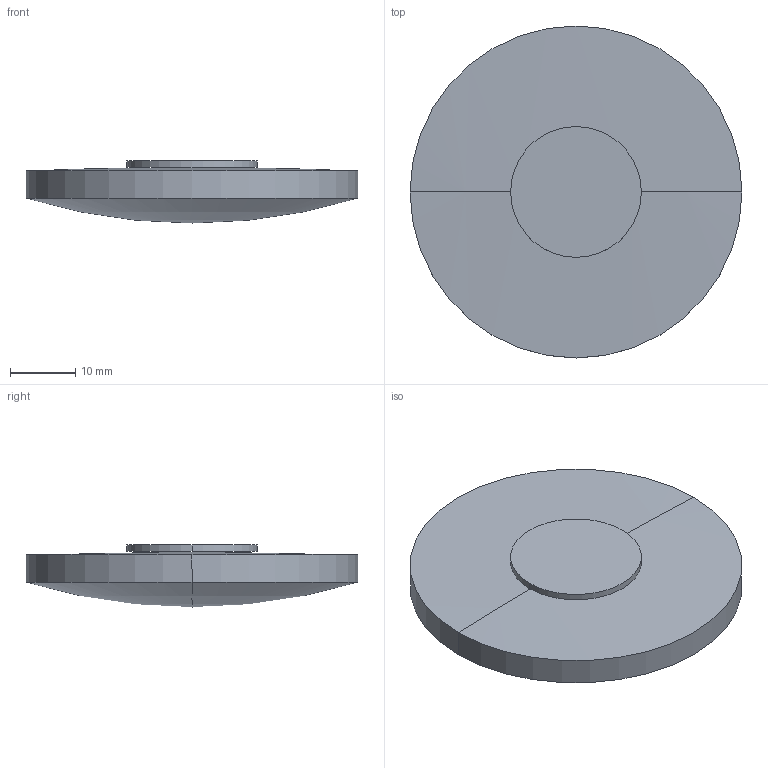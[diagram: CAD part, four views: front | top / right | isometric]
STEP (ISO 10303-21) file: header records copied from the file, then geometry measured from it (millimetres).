
FILE_DESCRIPTION(('STEP AP214'),'1');
FILE_NAME('LLV-51150.STEP','2020-03-09T17:42:25',(' '),(' '),'Spatial InterOp 3D',' ',' ');
FILE_SCHEMA(('AUTOMOTIVE_DESIGN { 1 0 10303 214 1 1 1 1 }'));
Length unit declared in the file: millimetre
Products named in the file (1): 1
Bounding box: 50.8 x 50.8 x 9.5 mm (x, y, z)
Volume: 13168.2 mm3; surface area: 5454.5 mm2
Topology: 2 solids, 2 shells, 10 faces, 20 edges, 10 vertices
Faces by surface type: sphere 4, cylinder 4, plane 2
Entity records: 255 total; most frequent: DIRECTION 52, CARTESIAN_POINT 38, ORIENTED_EDGE 32, AXIS2_PLACEMENT_3D 24, EDGE_CURVE 16, CIRCLE 12, ADVANCED_FACE 10, FACE_OUTER_BOUND 10
